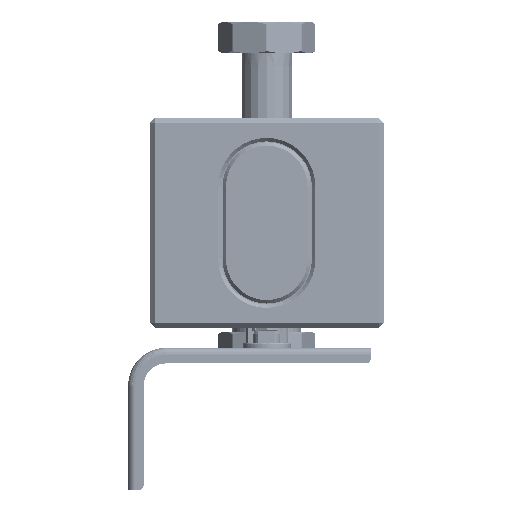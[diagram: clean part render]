
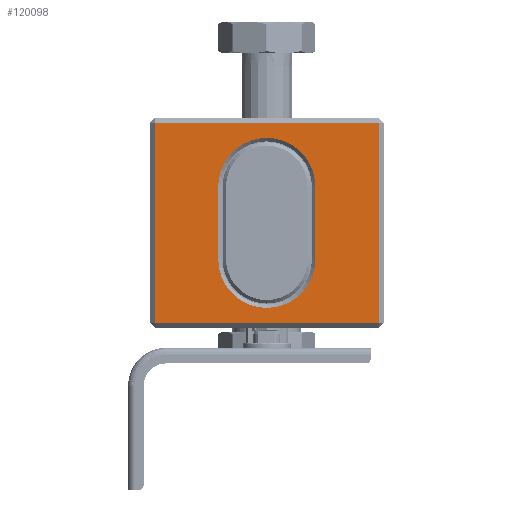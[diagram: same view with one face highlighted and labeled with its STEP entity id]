
A CAD part, left-side view. The second image highlights one B-rep face of the part: STEP entity #120098.
In plain terms, the highlighted planar face has unit normal (-1, 0, 0) as drawn and (0, -1, 0) by its records, which use the part's own axes.
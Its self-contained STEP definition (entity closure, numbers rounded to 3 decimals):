
#1220 = DIRECTION ( 'NONE',  ( -1., 0., 0. ) ) ;
#3577 = AXIS2_PLACEMENT_3D ( 'NONE', #35365, #51502, #15363 ) ;
#4652 = DIRECTION ( 'NONE',  ( 0., -1., 0. ) ) ;
#7080 = LINE ( 'NONE', #131165, #125304 ) ;
#10974 = EDGE_CURVE ( 'NONE', #121562, #25271, #105675, .T. ) ;
#11557 = ORIENTED_EDGE ( 'NONE', *, *, #46723, .T. ) ;
#15363 = DIRECTION ( 'NONE',  ( 1., 0., 0. ) ) ;
#17140 = FACE_BOUND ( 'NONE', #33909, .T. ) ;
#17300 = EDGE_CURVE ( 'NONE', #138959, #20569, #7080, .T. ) ;
#20569 = VERTEX_POINT ( 'NONE', #21426 ) ;
#20807 = CARTESIAN_POINT ( 'NONE',  ( -14.5, -7.003, -57.5 ) ) ;
#21070 = DIRECTION ( 'NONE',  ( 0., 0., -1. ) ) ;
#21426 = CARTESIAN_POINT ( 'NONE',  ( 78., -7.003, -21. ) ) ;
#25271 = VERTEX_POINT ( 'NONE', #45334 ) ;
#25616 = EDGE_CURVE ( 'NONE', #56962, #121562, #144827, .T. ) ;
#26995 = DIRECTION ( 'NONE',  ( 0., 0., -1. ) ) ;
#27503 = PLANE ( 'NONE',  #96745 ) ;
#28090 = CARTESIAN_POINT ( 'NONE',  ( 22., -7.003, 0. ) ) ;
#28538 = VECTOR ( 'NONE', #73131, 1000. ) ;
#32971 = CARTESIAN_POINT ( 'NONE',  ( 50., -7.003, -49. ) ) ;
#33909 = EDGE_LOOP ( 'NONE', ( #11557, #101266, #56182, #55793, #55414 ) ) ;
#35365 = CARTESIAN_POINT ( 'NONE',  ( 50., -7.003, 21. ) ) ;
#38675 = DIRECTION ( 'NONE',  ( 0., 1., 0. ) ) ;
#39437 = EDGE_CURVE ( 'NONE', #121233, #129881, #134971, .T. ) ;
#42597 = VECTOR ( 'NONE', #26995, 1000. ) ;
#43568 = EDGE_CURVE ( 'NONE', #20569, #56962, #104688, .T. ) ;
#45334 = CARTESIAN_POINT ( 'NONE',  ( 22., -7.003, 21. ) ) ;
#46723 = EDGE_CURVE ( 'NONE', #25271, #138959, #145124, .T. ) ;
#50405 = FACE_OUTER_BOUND ( 'NONE', #119133, .T. ) ;
#50877 = CARTESIAN_POINT ( 'NONE',  ( 114.5, -7.003, -57.5 ) ) ;
#51502 = DIRECTION ( 'NONE',  ( 0., 1., 0. ) ) ;
#52825 = CARTESIAN_POINT ( 'NONE',  ( 78., -7.003, 21. ) ) ;
#53671 = VECTOR ( 'NONE', #89360, 1000. ) ;
#53885 = CARTESIAN_POINT ( 'NONE',  ( 114.5, -7.003, 57.5 ) ) ;
#54471 = CARTESIAN_POINT ( 'NONE',  ( 50., -7.003, -21. ) ) ;
#55414 = ORIENTED_EDGE ( 'NONE', *, *, #10974, .T. ) ;
#55508 = DIRECTION ( 'NONE',  ( 0., 1., 0. ) ) ;
#55793 = ORIENTED_EDGE ( 'NONE', *, *, #25616, .T. ) ;
#56182 = ORIENTED_EDGE ( 'NONE', *, *, #43568, .T. ) ;
#56962 = VERTEX_POINT ( 'NONE', #32971 ) ;
#60223 = LINE ( 'NONE', #137169, #42597 ) ;
#64795 = CARTESIAN_POINT ( 'NONE',  ( -14.5, -7.003, 57.5 ) ) ;
#65706 = LINE ( 'NONE', #77530, #53671 ) ;
#68024 = DIRECTION ( 'NONE',  ( 0., 0., -1. ) ) ;
#70937 = VECTOR ( 'NONE', #1220, 1000. ) ;
#73131 = DIRECTION ( 'NONE',  ( 0., 0., 1. ) ) ;
#75398 = EDGE_CURVE ( 'NONE', #129881, #120178, #60223, .T. ) ;
#77530 = CARTESIAN_POINT ( 'NONE',  ( 114.5, -7.003, 0. ) ) ;
#79800 = ORIENTED_EDGE ( 'NONE', *, *, #75398, .T. ) ;
#89360 = DIRECTION ( 'NONE',  ( 0., 0., 1. ) ) ;
#96508 = ORIENTED_EDGE ( 'NONE', *, *, #99993, .T. ) ;
#96745 = AXIS2_PLACEMENT_3D ( 'NONE', #107985, #4652, #108709 ) ;
#97277 = CARTESIAN_POINT ( 'NONE',  ( 22., -7.003, -21. ) ) ;
#99993 = EDGE_CURVE ( 'NONE', #120178, #106465, #133994, .T. ) ;
#101266 = ORIENTED_EDGE ( 'NONE', *, *, #17300, .T. ) ;
#102383 = CARTESIAN_POINT ( 'NONE',  ( -17.5, -7.003, 57.5 ) ) ;
#104688 = CIRCLE ( 'NONE', #142479, 28. ) ;
#105675 = LINE ( 'NONE', #28090, #28538 ) ;
#106465 = VERTEX_POINT ( 'NONE', #50877 ) ;
#107985 = CARTESIAN_POINT ( 'NONE',  ( -17.5, -7.003, 0. ) ) ;
#108051 = ORIENTED_EDGE ( 'NONE', *, *, #39437, .T. ) ;
#108709 = DIRECTION ( 'NONE',  ( 0., 0., -1. ) ) ;
#110670 = ORIENTED_EDGE ( 'NONE', *, *, #138132, .T. ) ;
#113245 = DIRECTION ( 'NONE',  ( 1., 0., 0. ) ) ;
#116529 = AXIS2_PLACEMENT_3D ( 'NONE', #124232, #55508, #68024 ) ;
#119133 = EDGE_LOOP ( 'NONE', ( #108051, #79800, #96508, #110670 ) ) ;
#120098 = ADVANCED_FACE ( 'NONE', ( #17140, #50405 ), #27503, .T. ) ;
#120178 = VERTEX_POINT ( 'NONE', #20807 ) ;
#121233 = VERTEX_POINT ( 'NONE', #53885 ) ;
#121562 = VERTEX_POINT ( 'NONE', #97277 ) ;
#124232 = CARTESIAN_POINT ( 'NONE',  ( 50., -7.003, -21. ) ) ;
#125304 = VECTOR ( 'NONE', #21070, 1000. ) ;
#129881 = VERTEX_POINT ( 'NONE', #64795 ) ;
#131165 = CARTESIAN_POINT ( 'NONE',  ( 78., -7.003, 0. ) ) ;
#133994 = LINE ( 'NONE', #135455, #141966 ) ;
#134971 = LINE ( 'NONE', #102383, #70937 ) ;
#135455 = CARTESIAN_POINT ( 'NONE',  ( -17.5, -7.003, -57.5 ) ) ;
#137169 = CARTESIAN_POINT ( 'NONE',  ( -14.5, -7.003, 0. ) ) ;
#137782 = DIRECTION ( 'NONE',  ( 0., 0., -1. ) ) ;
#138132 = EDGE_CURVE ( 'NONE', #106465, #121233, #65706, .T. ) ;
#138959 = VERTEX_POINT ( 'NONE', #52825 ) ;
#141966 = VECTOR ( 'NONE', #113245, 1000. ) ;
#142479 = AXIS2_PLACEMENT_3D ( 'NONE', #54471, #38675, #137782 ) ;
#144827 = CIRCLE ( 'NONE', #116529, 28. ) ;
#145124 = CIRCLE ( 'NONE', #3577, 28. ) ;
